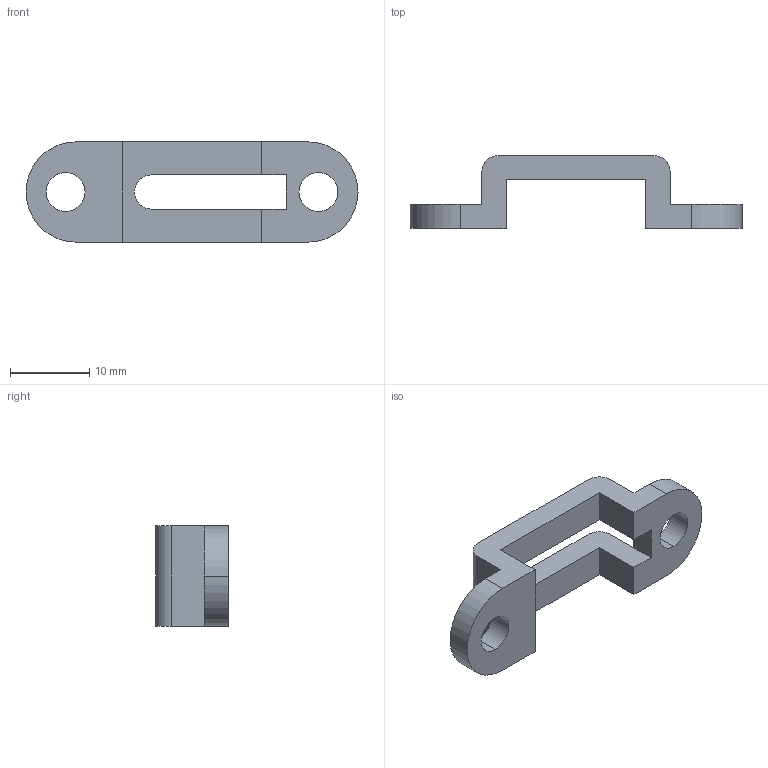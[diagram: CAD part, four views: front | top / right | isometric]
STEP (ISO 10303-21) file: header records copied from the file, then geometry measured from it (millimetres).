
FILE_DESCRIPTION (( 'STEP AP214' ), '1' );
FILE_NAME ('5032_V01_REF_PRT_NON-LOCKING_SINGLE_CLIP.STEP', '2025-04-10T18:57:45', ( '' ), ( '' ), 'SwSTEP 2.0', 'SolidWorks 2025', '' );
FILE_SCHEMA (( 'AUTOMOTIVE_DESIGN' ));
Length unit declared in the file: inch
Products named in the file (1): 5032_V01_REF_PRT_NON-LOCKING_SINGLE_CLIP
Bounding box: 42.01 x 9.22 x 12.7 mm (x, y, z)
Volume: 1536 mm3; surface area: 1641.6 mm2
Topology: 1 solids, 1 shells, 29 faces, 85 edges, 56 vertices
Faces by surface type: plane 17, cylinder 12
Entity records: 1006 total; most frequent: CARTESIAN_POINT 171, ORIENTED_EDGE 170, DIRECTION 169, EDGE_CURVE 85, VECTOR 61, LINE 61, VERTEX_POINT 56, AXIS2_PLACEMENT_3D 54
